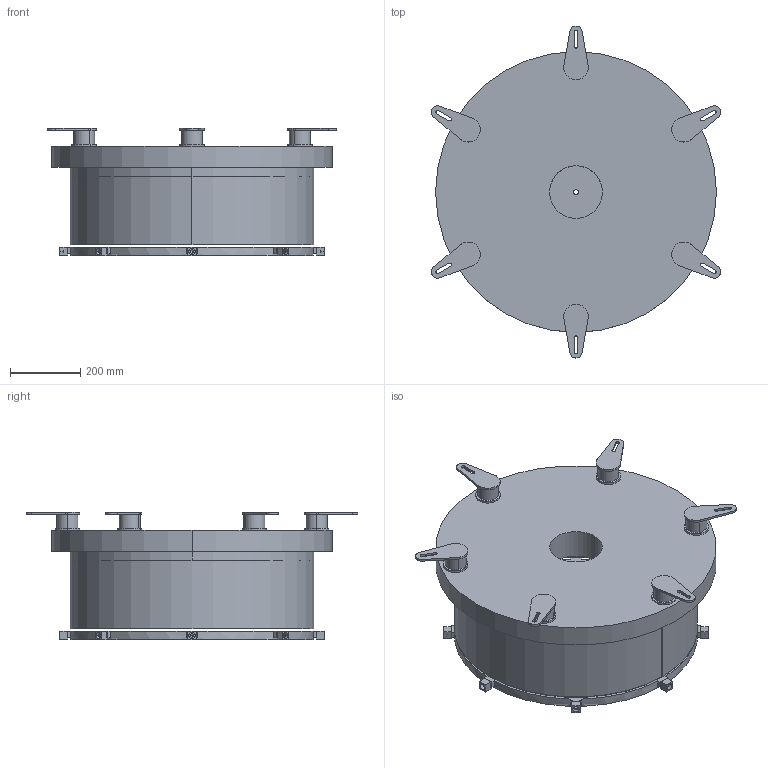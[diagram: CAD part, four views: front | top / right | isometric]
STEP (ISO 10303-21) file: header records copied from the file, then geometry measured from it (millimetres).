
FILE_DESCRIPTION (( 'STEP AP214' ), '1' );
FILE_NAME ('JA-C700.STEP', '2018-04-10T09:18:21', ( '' ), ( '' ), 'SwSTEP 2.0', 'SolidWorks 2016', '' );
FILE_SCHEMA (( 'AUTOMOTIVE_DESIGN' ));
Length unit declared in the file: millimetre
Products named in the file (6): 錨璃19C; 錨璃16C; JA-C700; 錨璃17C; SN-70; 錨璃18C
Assembly tree (17 placements, depth 2):
  JA-C700
    錨璃16C
    錨璃17C
    錨璃19C
    錨璃18C  x8
    SN-70  x6
Bounding box: 824.08 x 946 x 364 mm (x, y, z)
Volume: 49514324.6 mm3; surface area: 3219466.5 mm2
Topology: 17 solids, 17 shells, 344 faces, 836 edges, 544 vertices
Faces by surface type: plane 173, cylinder 155, cone 16
Entity records: 5536 total; most frequent: CARTESIAN_POINT 1373, DIRECTION 832, ORIENTED_EDGE 716, EDGE_CURVE 358, AXIS2_PLACEMENT_3D 323, VERTEX_POINT 236, EDGE_LOOP 188, LINE 186
